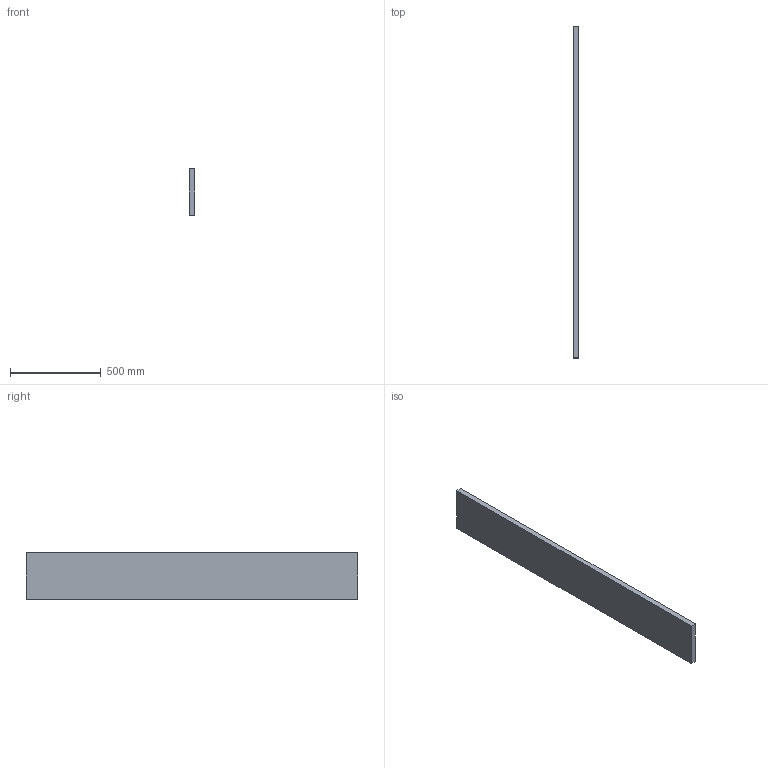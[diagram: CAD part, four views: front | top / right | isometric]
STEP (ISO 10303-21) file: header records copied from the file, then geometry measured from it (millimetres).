
FILE_DESCRIPTION(/* description */ (''),/* implementation_level */ '2;1');
FILE_NAME(/* name */ 'SM_Baffle1.2x10x72',/* time_stamp */ '2024-10-15T11:56:42-05:00',/* author */ (''),/* organization */ (''),/* preprocessor_version */ 'ST-DEVELOPER v19.2',/* originating_system */ 'Rhino 8.4',/* authorisation */ '');
FILE_SCHEMA (('CONFIG_CONTROL_DESIGN'));
Length unit declared in the file: inch
Products named in the file (1): Document
Bounding box: 30.48 x 1828.8 x 254 mm (x, y, z)
Volume: 14158423.3 mm3; surface area: 1055997.9 mm2
Topology: 1 solids, 1 shells, 6 faces, 12 edges, 8 vertices
Faces by surface type: plane 6
Entity records: 226 total; most frequent: CARTESIAN_POINT 40, ORIENTED_EDGE 24, EDGE_CURVE 12, B_SPLINE_CURVE_WITH_KNOTS 12, DIRECTION 10, VERTEX_POINT 8, AXIS2_PLACEMENT_3D 8, ORGANIZATION 7
